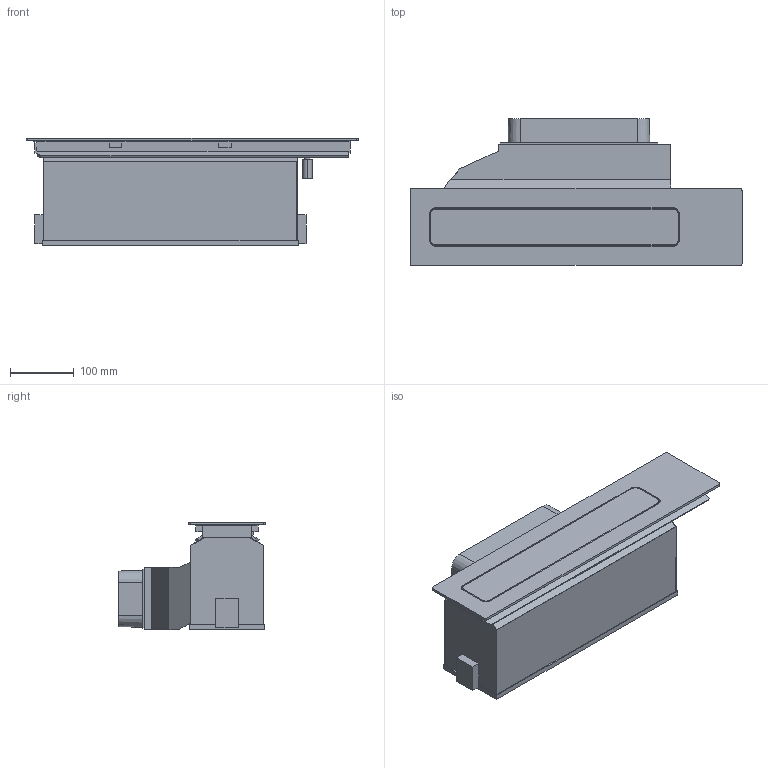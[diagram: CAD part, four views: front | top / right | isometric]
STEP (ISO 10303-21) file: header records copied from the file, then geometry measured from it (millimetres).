
FILE_DESCRIPTION(('CATIA V5 STEP','CAx-IF Rec.Pracs.--- Model Styling and Organization---1.2---2011-12-15'),'2;1');
FILE_NAME('d:\opendxmdata\jobs\0171455\0008_001_out\Simp_CSDA7000.stp','2017-12-12T09:30:20+00:00',('none'),('none'),'Version 5-6 Release 2012','CATIA V5 STEP AP214','none');
FILE_SCHEMA(('AUTOMOTIVE_DESIGN { 1 0 10303 214 1 1 1 1 }'));
Length unit declared in the file: millimetre
Products named in the file (1): Simp_CSDA7000
Bounding box: 520 x 229.9 x 168.83 mm (x, y, z)
Volume: 4541798.1 mm3; surface area: 1022032.4 mm2
Topology: 7 solids, 7 shells, 374 faces, 939 edges, 583 vertices
Faces by surface type: plane 218, cylinder 102, torus 26, bspline 16, cone 12
Entity records: 12451 total; most frequent: CARTESIAN_POINT 3988, ORIENTED_EDGE 1862, DIRECTION 1426, EDGE_CURVE 931, VECTOR 647, LINE 647, VERTEX_POINT 582, AXIS2_PLACEMENT_3D 468
